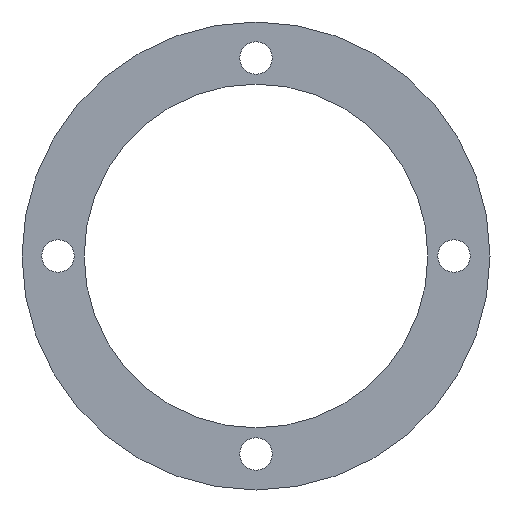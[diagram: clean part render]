
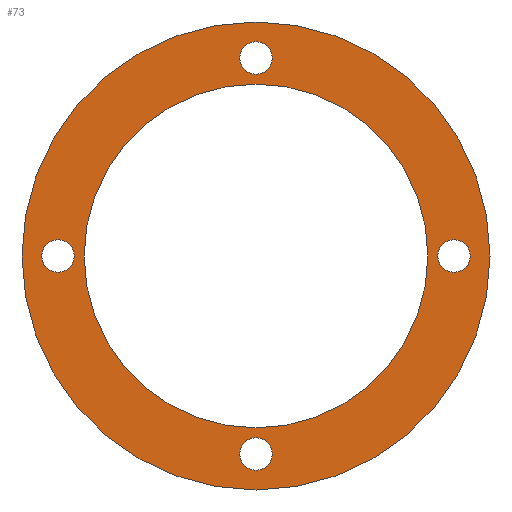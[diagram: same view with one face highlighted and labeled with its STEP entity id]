
A CAD part, front view. The second image highlights one B-rep face of the part: STEP entity #73.
In plain terms, the highlighted planar face has unit normal (0, -1, 0).
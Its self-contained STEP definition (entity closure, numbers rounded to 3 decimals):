
#1 = EDGE_LOOP ( 'NONE', ( #586, #326 ) ) ;
#2 = EDGE_LOOP ( 'NONE', ( #208, #213 ) ) ;
#23 = DIRECTION ( 'NONE',  ( 0., -1., 0. ) ) ;
#32 = DIRECTION ( 'NONE',  ( 0., 0., 1. ) ) ;
#34 = DIRECTION ( 'NONE',  ( 0., 0., 1. ) ) ;
#47 = DIRECTION ( 'NONE',  ( 0., 0., 1. ) ) ;
#53 = EDGE_CURVE ( 'NONE', #150, #299, #404, .T. ) ;
#60 = AXIS2_PLACEMENT_3D ( 'NONE', #147, #244, #47 ) ;
#62 = ORIENTED_EDGE ( 'NONE', *, *, #435, .T. ) ;
#70 = FACE_OUTER_BOUND ( 'NONE', #527, .T. ) ;
#71 = CARTESIAN_POINT ( 'NONE',  ( 0., 0., -65. ) ) ;
#73 = ADVANCED_FACE ( 'NONE', ( #230, #464, #255, #565, #77, #70 ), #319, .F. ) ;
#74 = CARTESIAN_POINT ( 'NONE',  ( 0., 0., -55. ) ) ;
#77 = FACE_BOUND ( 'NONE', #325, .T. ) ;
#88 = CIRCLE ( 'NONE', #332, 47.75 ) ;
#96 = CARTESIAN_POINT ( 'NONE',  ( 0., 0., 0. ) ) ;
#105 = EDGE_CURVE ( 'NONE', #604, #507, #139, .T. ) ;
#115 = CIRCLE ( 'NONE', #492, 4.5 ) ;
#122 = CARTESIAN_POINT ( 'NONE',  ( 0., 0., 47.75 ) ) ;
#123 = EDGE_LOOP ( 'NONE', ( #583, #380 ) ) ;
#126 = DIRECTION ( 'NONE',  ( 0., 0., 1. ) ) ;
#139 = CIRCLE ( 'NONE', #290, 4.5 ) ;
#142 = CARTESIAN_POINT ( 'NONE',  ( 55., 0., 0. ) ) ;
#147 = CARTESIAN_POINT ( 'NONE',  ( -55., 0., 0. ) ) ;
#150 = VERTEX_POINT ( 'NONE', #162 ) ;
#151 = CARTESIAN_POINT ( 'NONE',  ( 0., 0., 0. ) ) ;
#159 = AXIS2_PLACEMENT_3D ( 'NONE', #265, #262, #548 ) ;
#160 = ORIENTED_EDGE ( 'NONE', *, *, #238, .T. ) ;
#162 = CARTESIAN_POINT ( 'NONE',  ( 0., 0., -50.5 ) ) ;
#164 = CARTESIAN_POINT ( 'NONE',  ( 0., 0., 0. ) ) ;
#170 = EDGE_CURVE ( 'NONE', #518, #190, #352, .T. ) ;
#176 = AXIS2_PLACEMENT_3D ( 'NONE', #529, #470, #34 ) ;
#189 = CARTESIAN_POINT ( 'NONE',  ( 0., 0., 59.5 ) ) ;
#190 = VERTEX_POINT ( 'NONE', #632 ) ;
#200 = EDGE_CURVE ( 'NONE', #507, #604, #292, .T. ) ;
#208 = ORIENTED_EDGE ( 'NONE', *, *, #170, .T. ) ;
#211 = CARTESIAN_POINT ( 'NONE',  ( 55., 0., 0. ) ) ;
#213 = ORIENTED_EDGE ( 'NONE', *, *, #479, .T. ) ;
#230 = FACE_BOUND ( 'NONE', #1, .T. ) ;
#236 = CARTESIAN_POINT ( 'NONE',  ( -55., 0., 4.5 ) ) ;
#238 = EDGE_CURVE ( 'NONE', #336, #424, #587, .T. ) ;
#244 = DIRECTION ( 'NONE',  ( 0., 1., 0. ) ) ;
#255 = FACE_BOUND ( 'NONE', #123, .T. ) ;
#257 = EDGE_CURVE ( 'NONE', #305, #436, #88, .T. ) ;
#259 = DIRECTION ( 'NONE',  ( 0., -1., 0. ) ) ;
#260 = AXIS2_PLACEMENT_3D ( 'NONE', #74, #351, #446 ) ;
#262 = DIRECTION ( 'NONE',  ( 0., 1., 0. ) ) ;
#265 = CARTESIAN_POINT ( 'NONE',  ( 0., 0., 65. ) ) ;
#266 = AXIS2_PLACEMENT_3D ( 'NONE', #164, #259, #405 ) ;
#270 = ORIENTED_EDGE ( 'NONE', *, *, #387, .T. ) ;
#272 = CARTESIAN_POINT ( 'NONE',  ( 0., 0., 50.5 ) ) ;
#277 = DIRECTION ( 'NONE',  ( 0., 0., 1. ) ) ;
#290 = AXIS2_PLACEMENT_3D ( 'NONE', #454, #403, #601 ) ;
#292 = CIRCLE ( 'NONE', #176, 4.5 ) ;
#293 = DIRECTION ( 'NONE',  ( 0., -1., 0. ) ) ;
#294 = VERTEX_POINT ( 'NONE', #453 ) ;
#299 = VERTEX_POINT ( 'NONE', #500 ) ;
#301 = DIRECTION ( 'NONE',  ( 0., 1., 0. ) ) ;
#305 = VERTEX_POINT ( 'NONE', #122 ) ;
#313 = DIRECTION ( 'NONE',  ( 0., 1., 0. ) ) ;
#316 = AXIS2_PLACEMENT_3D ( 'NONE', #211, #301, #448 ) ;
#318 = AXIS2_PLACEMENT_3D ( 'NONE', #151, #293, #642 ) ;
#319 = PLANE ( 'NONE',  #159 ) ;
#323 = DIRECTION ( 'NONE',  ( 0., 0., -1. ) ) ;
#325 = EDGE_LOOP ( 'NONE', ( #584, #485 ) ) ;
#326 = ORIENTED_EDGE ( 'NONE', *, *, #593, .T. ) ;
#330 = EDGE_CURVE ( 'NONE', #424, #336, #536, .T. ) ;
#332 = AXIS2_PLACEMENT_3D ( 'NONE', #96, #376, #323 ) ;
#335 = AXIS2_PLACEMENT_3D ( 'NONE', #572, #471, #32 ) ;
#336 = VERTEX_POINT ( 'NONE', #423 ) ;
#351 = DIRECTION ( 'NONE',  ( 0., 1., 0. ) ) ;
#352 = CIRCLE ( 'NONE', #60, 4.5 ) ;
#358 = VERTEX_POINT ( 'NONE', #71 ) ;
#376 = DIRECTION ( 'NONE',  ( 0., -1., 0. ) ) ;
#380 = ORIENTED_EDGE ( 'NONE', *, *, #200, .T. ) ;
#387 = EDGE_CURVE ( 'NONE', #294, #358, #588, .T. ) ;
#389 = AXIS2_PLACEMENT_3D ( 'NONE', #142, #639, #277 ) ;
#397 = EDGE_LOOP ( 'NONE', ( #400, #160 ) ) ;
#400 = ORIENTED_EDGE ( 'NONE', *, *, #330, .T. ) ;
#403 = DIRECTION ( 'NONE',  ( 0., 1., 0. ) ) ;
#404 = CIRCLE ( 'NONE', #260, 4.5 ) ;
#405 = DIRECTION ( 'NONE',  ( 0., 0., -1. ) ) ;
#415 = CARTESIAN_POINT ( 'NONE',  ( 0., 0., 0. ) ) ;
#423 = CARTESIAN_POINT ( 'NONE',  ( 55., 0., -4.5 ) ) ;
#424 = VERTEX_POINT ( 'NONE', #590 ) ;
#426 = CIRCLE ( 'NONE', #335, 4.5 ) ;
#435 = EDGE_CURVE ( 'NONE', #358, #294, #516, .T. ) ;
#436 = VERTEX_POINT ( 'NONE', #499 ) ;
#446 = DIRECTION ( 'NONE',  ( 0., 0., 1. ) ) ;
#448 = DIRECTION ( 'NONE',  ( 0., 0., 1. ) ) ;
#453 = CARTESIAN_POINT ( 'NONE',  ( 0., 0., 65. ) ) ;
#454 = CARTESIAN_POINT ( 'NONE',  ( 0., 0., 55. ) ) ;
#464 = FACE_BOUND ( 'NONE', #2, .T. ) ;
#470 = DIRECTION ( 'NONE',  ( 0., 1., 0. ) ) ;
#471 = DIRECTION ( 'NONE',  ( 0., 1., 0. ) ) ;
#479 = EDGE_CURVE ( 'NONE', #190, #518, #426, .T. ) ;
#485 = ORIENTED_EDGE ( 'NONE', *, *, #257, .F. ) ;
#492 = AXIS2_PLACEMENT_3D ( 'NONE', #630, #313, #126 ) ;
#499 = CARTESIAN_POINT ( 'NONE',  ( 0., 0., -47.75 ) ) ;
#500 = CARTESIAN_POINT ( 'NONE',  ( 0., 0., -59.5 ) ) ;
#507 = VERTEX_POINT ( 'NONE', #272 ) ;
#516 = CIRCLE ( 'NONE', #318, 65. ) ;
#518 = VERTEX_POINT ( 'NONE', #236 ) ;
#527 = EDGE_LOOP ( 'NONE', ( #62, #270 ) ) ;
#529 = CARTESIAN_POINT ( 'NONE',  ( 0., 0., 55. ) ) ;
#536 = CIRCLE ( 'NONE', #316, 4.5 ) ;
#543 = CIRCLE ( 'NONE', #266, 47.75 ) ;
#548 = DIRECTION ( 'NONE',  ( 0., 0., 1. ) ) ;
#565 = FACE_BOUND ( 'NONE', #397, .T. ) ;
#572 = CARTESIAN_POINT ( 'NONE',  ( -55., 0., 0. ) ) ;
#583 = ORIENTED_EDGE ( 'NONE', *, *, #105, .T. ) ;
#584 = ORIENTED_EDGE ( 'NONE', *, *, #641, .F. ) ;
#586 = ORIENTED_EDGE ( 'NONE', *, *, #53, .T. ) ;
#587 = CIRCLE ( 'NONE', #389, 4.5 ) ;
#588 = CIRCLE ( 'NONE', #596, 65. ) ;
#590 = CARTESIAN_POINT ( 'NONE',  ( 55., 0., 4.5 ) ) ;
#593 = EDGE_CURVE ( 'NONE', #299, #150, #115, .T. ) ;
#596 = AXIS2_PLACEMENT_3D ( 'NONE', #415, #23, #615 ) ;
#601 = DIRECTION ( 'NONE',  ( 0., 0., 1. ) ) ;
#604 = VERTEX_POINT ( 'NONE', #189 ) ;
#615 = DIRECTION ( 'NONE',  ( 0., 0., -1. ) ) ;
#630 = CARTESIAN_POINT ( 'NONE',  ( 0., 0., -55. ) ) ;
#632 = CARTESIAN_POINT ( 'NONE',  ( -55., 0., -4.5 ) ) ;
#639 = DIRECTION ( 'NONE',  ( 0., 1., 0. ) ) ;
#641 = EDGE_CURVE ( 'NONE', #436, #305, #543, .T. ) ;
#642 = DIRECTION ( 'NONE',  ( 0., 0., -1. ) ) ;
